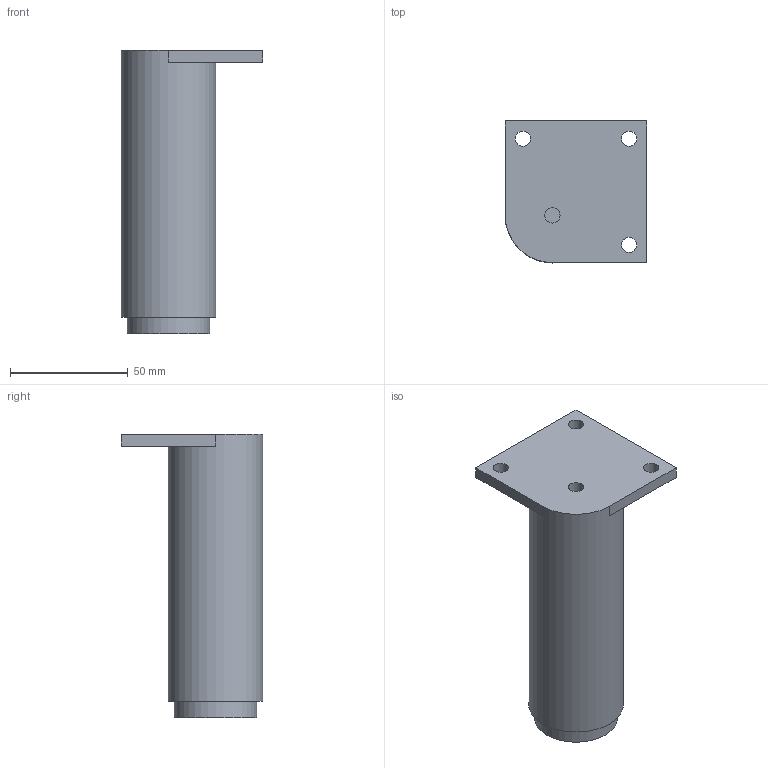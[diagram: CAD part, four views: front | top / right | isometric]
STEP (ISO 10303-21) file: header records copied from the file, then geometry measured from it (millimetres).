
FILE_DESCRIPTION( ( 'STEP AP214' ), '1' );
FILE_NAME( 'D:/Yug/2021/Desk_and_office_organisation/QC/9119553.stp', '2021-01-06T05:07:26', ( '' ), ( '' ), ' ', 'PARTsolutions', ' ' );
FILE_SCHEMA( ( 'AUTOMOTIVE_DESIGN { 1 0 10303 214 1 1 1 1 }' ) );
Length unit declared in the file: millimetre
Products named in the file (1): _9119553
Bounding box: 60 x 60 x 120 mm (x, y, z)
Volume: 159362.8 mm3; surface area: 22736 mm2
Topology: 1 solids, 1 shells, 15 faces, 33 edges, 22 vertices
Faces by surface type: plane 9, cylinder 6
Full cylindrical faces by diameter (mm): 6.48 x4, 35 x1, 40 x1
Entity records: 529 total; most frequent: DIRECTION 71, CARTESIAN_POINT 63, ORIENTED_EDGE 52, AXIS2_PLACEMENT_3D 29, EDGE_LOOP 29, EDGE_CURVE 26, FACE_OUTER_BOUND 21, VERTEX_POINT 21
